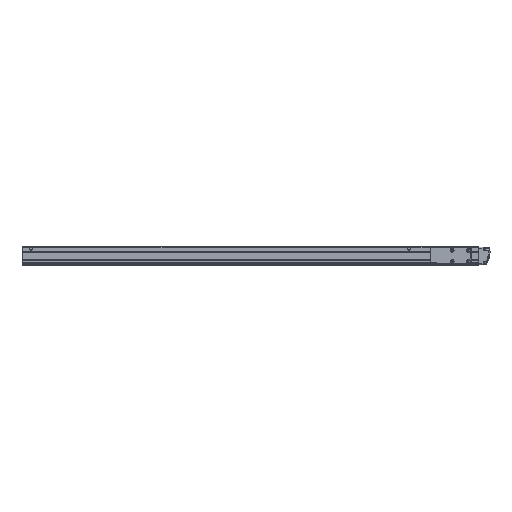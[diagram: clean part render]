
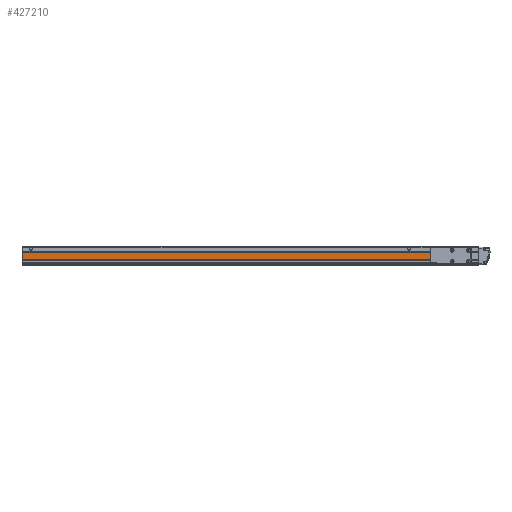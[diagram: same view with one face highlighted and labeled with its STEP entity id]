
A CAD part, top view. The second image highlights one B-rep face of the part: STEP entity #427210.
In plain terms, the highlighted planar face has unit normal (0, 0, 1) as drawn and (0, -1, 0) by its records, which use the part's own axes.
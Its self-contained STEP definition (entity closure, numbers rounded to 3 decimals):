
#372400=CARTESIAN_POINT('',(-34.313,2.123,
2275.49));
#372410=VERTEX_POINT('',#372400);
#372440=CARTESIAN_POINT('',(-34.313,2.123,
3998.61));
#372450=DIRECTION('',(0.,0.,-1.));
#372460=VECTOR('',#372450,1.);
#372470=LINE('',#372440,#372460);
#372480=CARTESIAN_POINT('',(-34.313,2.123,
3407.04));
#372490=VERTEX_POINT('',#372480);
#372500=EDGE_CURVE('',#372490,#372410,#372470,.T.);
#393110=CARTESIAN_POINT('',(-55.813,2.123,
2275.49));
#393120=VERTEX_POINT('',#393110);
#393280=CARTESIAN_POINT('',(-55.813,2.123,
3407.04));
#393290=VERTEX_POINT('',#393280);
#393320=CARTESIAN_POINT('',(-55.813,2.123,
3998.61));
#393330=DIRECTION('',(0.,0.,-1.));
#393340=VECTOR('',#393330,1.);
#393350=LINE('',#393320,#393340);
#393360=EDGE_CURVE('',#393290,#393120,#393350,.T.);
#406770=CARTESIAN_POINT('',(-66.725,2.123,
2275.49));
#406780=DIRECTION('',(1.,0.,0.));
#406790=VECTOR('',#406780,1.);
#406800=LINE('',#406770,#406790);
#406810=EDGE_CURVE('',#393120,#372410,#406800,.T.);
#427050=CARTESIAN_POINT('',(-55.813,2.123,
3182.233));
#427060=DIRECTION('',(-0.,1.,0.));
#427070=DIRECTION('',(1.,0.,0.));
#427080=AXIS2_PLACEMENT_3D('',#427050,#427060,#427070);
#427090=PLANE('',#427080);
#427100=ORIENTED_EDGE('',*,*,#406810,.T.);
#427110=ORIENTED_EDGE('',*,*,#393360,.T.);
#427120=CARTESIAN_POINT('',(-55.813,2.123,
3407.04));
#427130=DIRECTION('',(1.,0.,0.));
#427140=VECTOR('',#427130,1.);
#427150=LINE('',#427120,#427140);
#427160=EDGE_CURVE('',#393290,#372490,#427150,.T.);
#427170=ORIENTED_EDGE('',*,*,#427160,.F.);
#427180=ORIENTED_EDGE('',*,*,#372500,.F.);
#427190=EDGE_LOOP('',(#427180,#427170,#427110,#427100));
#427200=FACE_OUTER_BOUND('',#427190,.T.);
#427210=ADVANCED_FACE('',(#427200),#427090,.F.);
